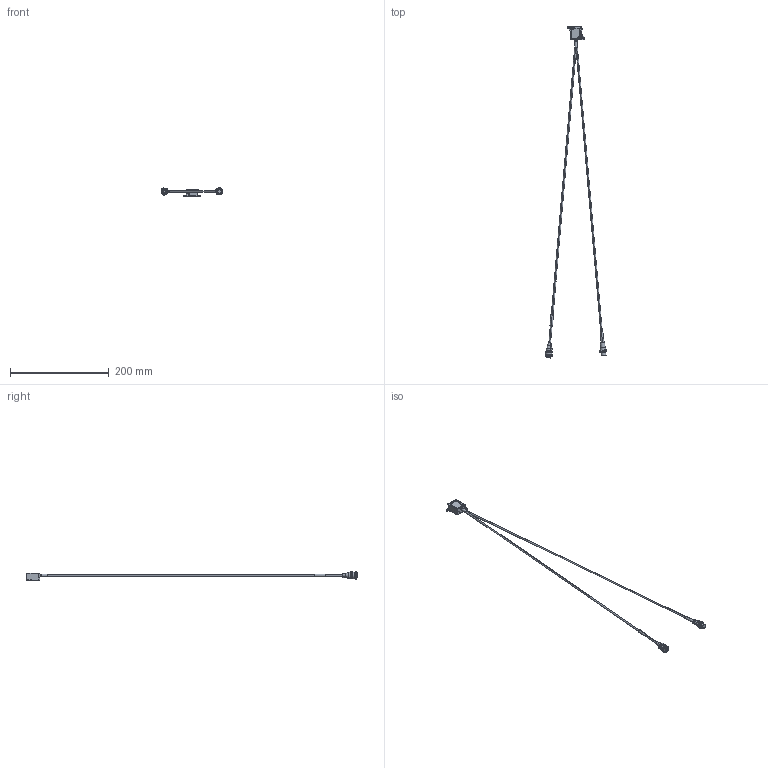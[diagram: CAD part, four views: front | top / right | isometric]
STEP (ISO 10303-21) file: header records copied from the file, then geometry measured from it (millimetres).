
FILE_DESCRIPTION(('CATIA V5 STEP Exchange'),'2;1');
FILE_NAME('Z:\00_Public\Jesus_Share\Florian support CAD\Acceleration Sensor\B_261_209_311-01_Malfunction_Sensor_AM_600_AllCATPrduct.stp','2014-04-04T14:06:20+00:00',('none'),('none'),'CATIA Version 5 Release 19 SP 9 (IN-10)','CATIA V5 STEP AP214','none');
FILE_SCHEMA(('AUTOMOTIVE_DESIGN { 1 0 10303 214 1 1 1 1 }'));
Length unit declared in the file: millimetre
Products named in the file (11): B_261_209_311-01_Acceleration_Sensor_AM_600_AllCATPrduct; B_261_209_311-01_Acceleration_Sensor_AM_600_AllCATPart; Kabelabgang; ASL 6-06-05PA-HE; Formteil_204W221-25; Washer; Bolt; LED_Casing; LED Light; LED_Socket; LED Cover
Assembly tree (10 placements, depth 2):
  B_261_209_311-01_Acceleration_Sensor_AM_600_AllCATPrduct
    B_261_209_311-01_Acceleration_Sensor_AM_600_AllCATPart
    Kabelabgang
    ASL 6-06-05PA-HE
    Formteil_204W221-25
    Washer
    Bolt
    LED_Casing
    LED Light
    LED_Socket
    LED Cover
Bounding box: 124.78 x 671.74 x 16.68 mm (x, y, z)
Volume: 17641.5 mm3; surface area: 26347.1 mm2
Topology: 15 solids, 15 shells, 461 faces, 1156 edges, 752 vertices
Faces by surface type: plane 221, cylinder 202, cone 18, sphere 12, torus 6, revolution 2
Entity records: 13708 total; most frequent: CARTESIAN_POINT 2423, ORIENTED_EDGE 2288, DIRECTION 1779, EDGE_CURVE 1144, AXIS2_PLACEMENT_3D 792, VERTEX_POINT 752, VECTOR 655, LINE 655
